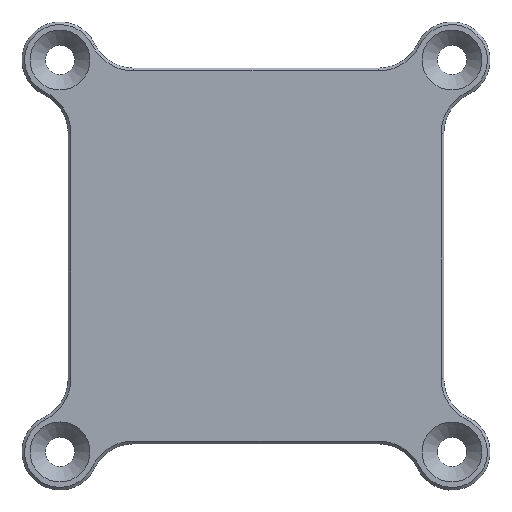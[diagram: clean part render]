
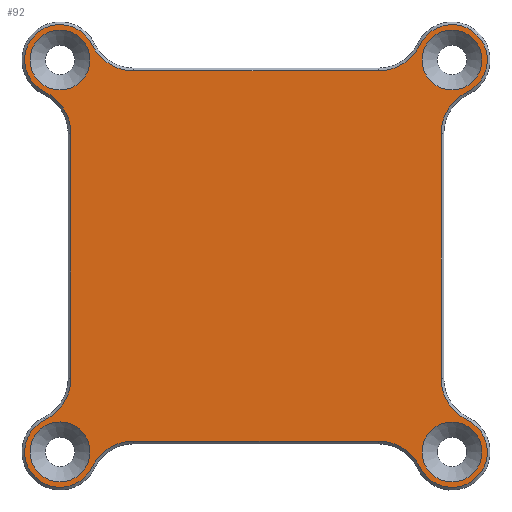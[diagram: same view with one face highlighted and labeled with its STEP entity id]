
A CAD part, top view. The second image highlights one B-rep face of the part: STEP entity #92.
In plain terms, the highlighted planar face has unit normal (0, 0, 1).
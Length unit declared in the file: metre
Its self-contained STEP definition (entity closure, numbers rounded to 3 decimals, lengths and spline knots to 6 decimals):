
#92=ADVANCED_FACE('0:38',(#232,#233,#234,#235,#236),#237,.T.);
#232=FACE_BOUND('',#429,.T.);
#233=FACE_BOUND('',#430,.T.);
#234=FACE_BOUND('',#431,.T.);
#235=FACE_BOUND('',#432,.T.);
#236=FACE_OUTER_BOUND('',#433,.T.);
#237=PLANE('',#434);
#429=EDGE_LOOP('',(#639));
#430=EDGE_LOOP('',(#640));
#431=EDGE_LOOP('',(#641));
#432=EDGE_LOOP('',(#642));
#433=EDGE_LOOP('',(#643,#644,#645,#646,#647,#648,#649,#650,#651,#652,#653,#654,#655,#656,#657,#658));
#434=AXIS2_PLACEMENT_3D('',#659,#660,#661);
#639=ORIENTED_EDGE('',*,*,#1083,.T.);
#640=ORIENTED_EDGE('',*,*,#1086,.T.);
#641=ORIENTED_EDGE('',*,*,#1104,.T.);
#642=ORIENTED_EDGE('',*,*,#1105,.T.);
#643=ORIENTED_EDGE('',*,*,#1106,.T.);
#644=ORIENTED_EDGE('',*,*,#1107,.T.);
#645=ORIENTED_EDGE('',*,*,#1108,.T.);
#646=ORIENTED_EDGE('',*,*,#1109,.T.);
#647=ORIENTED_EDGE('',*,*,#1110,.T.);
#648=ORIENTED_EDGE('',*,*,#1111,.T.);
#649=ORIENTED_EDGE('',*,*,#1112,.T.);
#650=ORIENTED_EDGE('',*,*,#1113,.T.);
#651=ORIENTED_EDGE('',*,*,#1114,.T.);
#652=ORIENTED_EDGE('',*,*,#1115,.T.);
#653=ORIENTED_EDGE('',*,*,#1116,.T.);
#654=ORIENTED_EDGE('',*,*,#1117,.T.);
#655=ORIENTED_EDGE('',*,*,#1118,.T.);
#656=ORIENTED_EDGE('',*,*,#1119,.T.);
#657=ORIENTED_EDGE('',*,*,#1120,.T.);
#658=ORIENTED_EDGE('',*,*,#1121,.T.);
#659=CARTESIAN_POINT('',(0.,0.,0.003));
#660=DIRECTION('',(0.0,0.0,1.0));
#661=DIRECTION('',(-1.0,0.,0.0));
#1083=EDGE_CURVE('0:197',#1265,#1265,#1266,.F.);
#1086=EDGE_CURVE('0:203',#1270,#1270,#1271,.F.);
#1104=EDGE_CURVE('0:209',#1302,#1302,#1303,.F.);
#1105=EDGE_CURVE('0:215',#1304,#1304,#1305,.F.);
#1106=EDGE_CURVE('0:368',#1306,#1307,#1308,.F.);
#1107=EDGE_CURVE('0:365',#1307,#1309,#1310,.T.);
#1108=EDGE_CURVE('0:410',#1309,#1311,#1312,.F.);
#1109=EDGE_CURVE('0:407',#1311,#1313,#1314,.T.);
#1110=EDGE_CURVE('0:404',#1313,#1315,#1316,.F.);
#1111=EDGE_CURVE('0:401',#1315,#1317,#1318,.T.);
#1112=EDGE_CURVE('0:398',#1317,#1319,#1320,.F.);
#1113=EDGE_CURVE('0:395',#1319,#1321,#1322,.T.);
#1114=EDGE_CURVE('0:392',#1321,#1323,#1324,.F.);
#1115=EDGE_CURVE('0:389',#1323,#1325,#1326,.T.);
#1116=EDGE_CURVE('0:386',#1325,#1327,#1328,.F.);
#1117=EDGE_CURVE('0:383',#1327,#1329,#1330,.T.);
#1118=EDGE_CURVE('0:380',#1329,#1331,#1332,.F.);
#1119=EDGE_CURVE('0:377',#1331,#1333,#1334,.T.);
#1120=EDGE_CURVE('0:374',#1333,#1335,#1336,.F.);
#1121=EDGE_CURVE('0:371',#1335,#1306,#1337,.T.);
#1265=VERTEX_POINT('',#1523);
#1266=CIRCLE('',#1524,0.00275);
#1270=VERTEX_POINT('',#1528);
#1271=CIRCLE('',#1529,0.00275);
#1302=VERTEX_POINT('',#1568);
#1303=CIRCLE('',#1569,0.00275);
#1304=VERTEX_POINT('',#1570);
#1305=CIRCLE('',#1571,0.00275);
#1306=VERTEX_POINT('',#1572);
#1307=VERTEX_POINT('',#1573);
#1308=CIRCLE('',#1574,0.00425);
#1309=VERTEX_POINT('',#1575);
#1310=LINE('',#1576,#1577);
#1311=VERTEX_POINT('',#1578);
#1312=CIRCLE('',#1579,0.00425);
#1313=VERTEX_POINT('',#1580);
#1314=CIRCLE('',#1581,0.00325);
#1315=VERTEX_POINT('',#1582);
#1316=CIRCLE('',#1583,0.00425);
#1317=VERTEX_POINT('',#1584);
#1318=LINE('',#1585,#1586);
#1319=VERTEX_POINT('',#1587);
#1320=CIRCLE('',#1588,0.00425);
#1321=VERTEX_POINT('',#1589);
#1322=CIRCLE('',#1590,0.00325);
#1323=VERTEX_POINT('',#1591);
#1324=CIRCLE('',#1592,0.00425);
#1325=VERTEX_POINT('',#1593);
#1326=LINE('',#1594,#1595);
#1327=VERTEX_POINT('',#1596);
#1328=CIRCLE('',#1597,0.00425);
#1329=VERTEX_POINT('',#1598);
#1330=CIRCLE('',#1599,0.00325);
#1331=VERTEX_POINT('',#1600);
#1332=CIRCLE('',#1601,0.00425);
#1333=VERTEX_POINT('',#1602);
#1334=LINE('',#1603,#1604);
#1335=VERTEX_POINT('',#1605);
#1336=CIRCLE('',#1606,0.00425);
#1337=CIRCLE('',#1607,0.00325);
#1523=CARTESIAN_POINT('',(-0.01525,0.018002,0.003));
#1524=AXIS2_PLACEMENT_3D('',#1844,#1845,#1846);
#1528=CARTESIAN_POINT('',(0.02075,0.017998,0.003));
#1529=AXIS2_PLACEMENT_3D('',#1850,#1851,#1852);
#1568=CARTESIAN_POINT('',(0.02075,-0.018002,0.003));
#1569=AXIS2_PLACEMENT_3D('',#1876,#1877,#1878);
#1570=CARTESIAN_POINT('',(-0.01525,-0.017998,0.003));
#1571=AXIS2_PLACEMENT_3D('',#1879,#1880,#1881);
#1572=CARTESIAN_POINT('',(-0.015071,-0.019407,0.003));
#1573=CARTESIAN_POINT('',(-0.011242,-0.017,0.003));
#1574=AXIS2_PLACEMENT_3D('',#1882,#1883,#1884);
#1575=CARTESIAN_POINT('',(0.01124,-0.017,0.003));
#1576=CARTESIAN_POINT('',(0.,-0.017,0.003));
#1577=VECTOR('',#1885,1.0);
#1578=CARTESIAN_POINT('',(0.015071,-0.019409,0.003));
#1579=AXIS2_PLACEMENT_3D('',#1886,#1887,#1888);
#1580=CARTESIAN_POINT('',(0.019408,-0.015073,0.003));
#1581=AXIS2_PLACEMENT_3D('',#1889,#1890,#1891);
#1582=CARTESIAN_POINT('',(0.017,-0.011243,0.003));
#1583=AXIS2_PLACEMENT_3D('',#1892,#1893,#1894);
#1584=CARTESIAN_POINT('',(0.017,0.011239,0.003));
#1585=CARTESIAN_POINT('',(0.017,0.,0.003));
#1586=VECTOR('',#1895,1.0);
#1587=CARTESIAN_POINT('',(0.019408,0.015069,0.003));
#1588=AXIS2_PLACEMENT_3D('',#1896,#1897,#1898);
#1589=CARTESIAN_POINT('',(0.015071,0.019407,0.003));
#1590=AXIS2_PLACEMENT_3D('',#1899,#1900,#1901);
#1591=CARTESIAN_POINT('',(0.011242,0.017,0.003));
#1592=AXIS2_PLACEMENT_3D('',#1902,#1903,#1904);
#1593=CARTESIAN_POINT('',(-0.01124,0.017,0.003));
#1594=CARTESIAN_POINT('',(0.,0.017,0.003));
#1595=VECTOR('',#1905,1.0);
#1596=CARTESIAN_POINT('',(-0.015071,0.019409,0.003));
#1597=AXIS2_PLACEMENT_3D('',#1906,#1907,#1908);
#1598=CARTESIAN_POINT('',(-0.019408,0.015073,0.003));
#1599=AXIS2_PLACEMENT_3D('',#1909,#1910,#1911);
#1600=CARTESIAN_POINT('',(-0.017,0.011243,0.003));
#1601=AXIS2_PLACEMENT_3D('',#1912,#1913,#1914);
#1602=CARTESIAN_POINT('',(-0.017,-0.011239,0.003));
#1603=CARTESIAN_POINT('',(-0.017,0.,0.003));
#1604=VECTOR('',#1915,1.0);
#1605=CARTESIAN_POINT('',(-0.019408,-0.015069,0.003));
#1606=AXIS2_PLACEMENT_3D('',#1916,#1917,#1918);
#1607=AXIS2_PLACEMENT_3D('',#1919,#1920,#1921);
#1844=CARTESIAN_POINT('',(-0.018,0.018002,0.003));
#1845=DIRECTION('',(0.0,0.0,1.0));
#1846=DIRECTION('',(1.0,0.0,-0.0));
#1850=CARTESIAN_POINT('',(0.018,0.017998,0.003));
#1851=DIRECTION('',(0.0,0.0,1.0));
#1852=DIRECTION('',(1.0,0.0,-0.0));
#1876=CARTESIAN_POINT('',(0.018,-0.018002,0.003));
#1877=DIRECTION('',(0.0,0.0,1.0));
#1878=DIRECTION('',(1.0,0.0,-0.0));
#1879=CARTESIAN_POINT('',(-0.018,-0.017998,0.003));
#1880=DIRECTION('',(0.0,0.0,1.0));
#1881=DIRECTION('',(1.0,0.0,-0.0));
#1882=CARTESIAN_POINT('',(-0.011242,-0.02125,0.003));
#1883=DIRECTION('',(0.0,0.0,1.0));
#1884=DIRECTION('',(1.0,0.0,-0.0));
#1885=DIRECTION('',(1.0,0.,0.0));
#1886=CARTESIAN_POINT('',(0.01124,-0.02125,0.003));
#1887=DIRECTION('',(0.0,0.0,1.0));
#1888=DIRECTION('',(1.0,0.0,-0.0));
#1889=CARTESIAN_POINT('',(0.018,-0.018002,0.003));
#1890=DIRECTION('',(0.0,0.0,1.0));
#1891=DIRECTION('',(1.0,0.0,-0.0));
#1892=CARTESIAN_POINT('',(0.02125,-0.011243,0.003));
#1893=DIRECTION('',(0.0,0.0,1.0));
#1894=DIRECTION('',(1.0,0.0,-0.0));
#1895=DIRECTION('',(0.,1.0,0.0));
#1896=CARTESIAN_POINT('',(0.02125,0.011239,0.003));
#1897=DIRECTION('',(0.0,0.0,1.0));
#1898=DIRECTION('',(1.0,0.0,-0.0));
#1899=CARTESIAN_POINT('',(0.018,0.017998,0.003));
#1900=DIRECTION('',(0.0,0.0,1.0));
#1901=DIRECTION('',(1.0,0.0,-0.0));
#1902=CARTESIAN_POINT('',(0.011242,0.02125,0.003));
#1903=DIRECTION('',(0.0,0.0,1.0));
#1904=DIRECTION('',(1.0,0.0,-0.0));
#1905=DIRECTION('',(-1.0,0.,0.0));
#1906=CARTESIAN_POINT('',(-0.01124,0.02125,0.003));
#1907=DIRECTION('',(0.0,0.0,1.0));
#1908=DIRECTION('',(1.0,0.0,-0.0));
#1909=CARTESIAN_POINT('',(-0.018,0.018002,0.003));
#1910=DIRECTION('',(0.0,0.0,1.0));
#1911=DIRECTION('',(1.0,0.0,-0.0));
#1912=CARTESIAN_POINT('',(-0.02125,0.011243,0.003));
#1913=DIRECTION('',(0.0,0.0,1.0));
#1914=DIRECTION('',(1.0,0.0,-0.0));
#1915=DIRECTION('',(0.,-1.0,0.0));
#1916=CARTESIAN_POINT('',(-0.02125,-0.011239,0.003));
#1917=DIRECTION('',(0.0,0.0,1.0));
#1918=DIRECTION('',(1.0,0.0,-0.0));
#1919=CARTESIAN_POINT('',(-0.018,-0.017998,0.003));
#1920=DIRECTION('',(0.0,0.0,1.0));
#1921=DIRECTION('',(1.0,0.0,-0.0));
